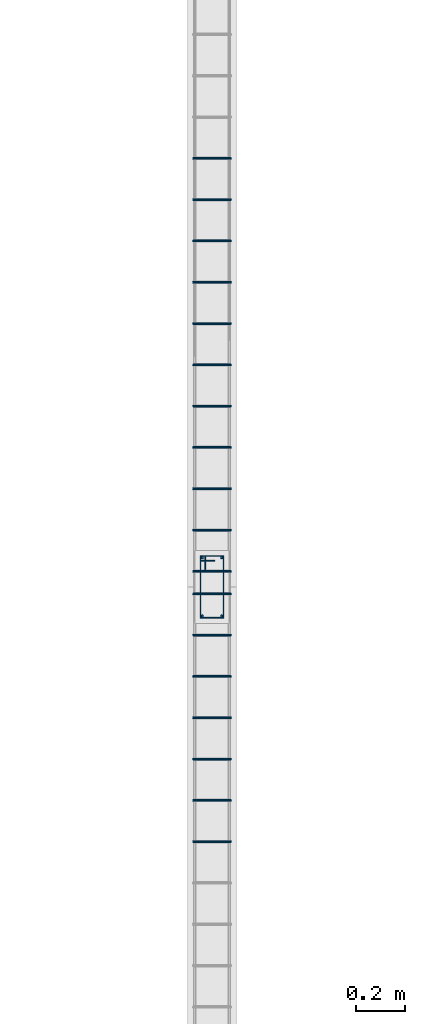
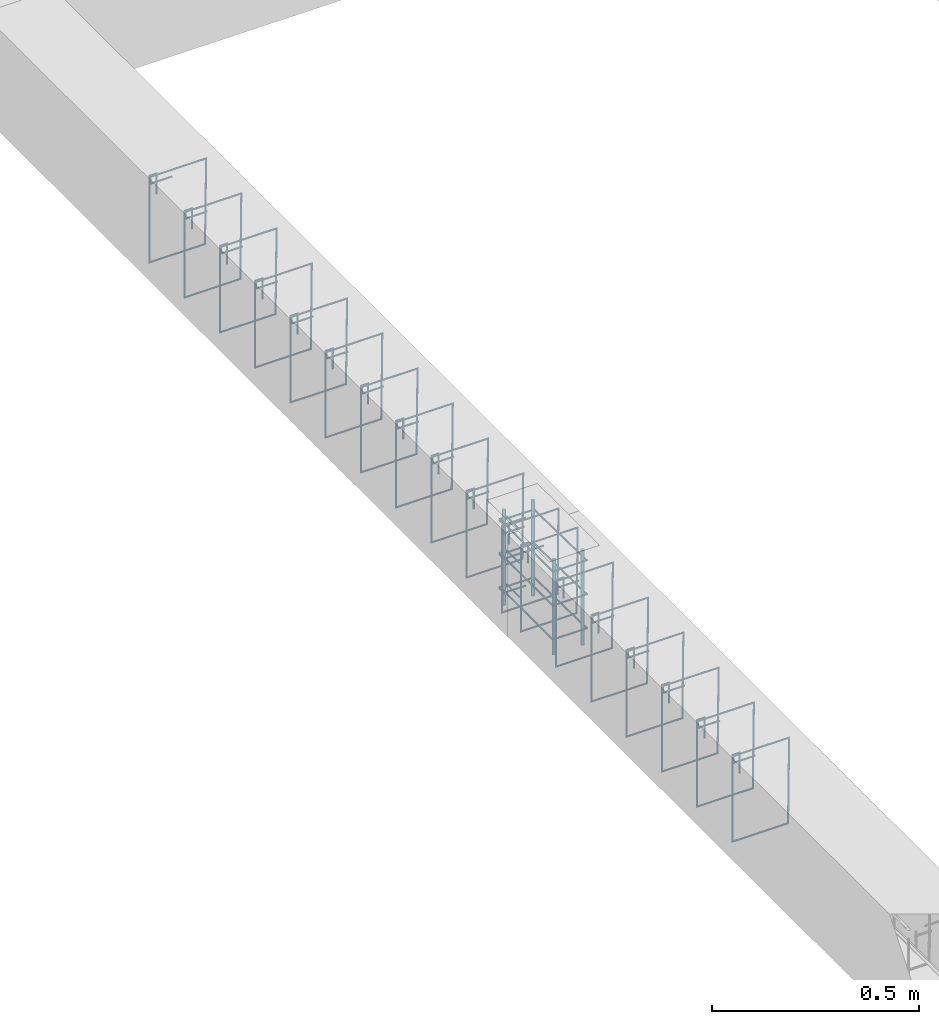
# One storey, part 135 of 150: 25 reinforcing bars.
"""IFC4 building model written with IfcOpenShell, lengths in centimetres."""

from ifc_helpers import new_model, entity, si_unit, derived_unit, frame, origin_with_axes, place, context, project, spatial, source, transform, mapped, element, save


model = new_model("IFC4")

# Units and contexts
model_context = context("Model", 3, precision=1e-05, world=origin_with_axes(), identifier="Body")
ifc_project = project(units=[si_unit("LENGTHUNIT", "METRE", prefix="CENTI"), si_unit("VOLUMEUNIT", "CUBIC_METRE"), si_unit("AREAUNIT", "SQUARE_METRE"), si_unit("POWERUNIT", "WATT"), si_unit("LUMINOUSFLUXUNIT", "LUMEN"), si_unit("ELECTRICCURRENTUNIT", "AMPERE"), si_unit("PRESSUREUNIT", "PASCAL", prefix="KILO"), si_unit("MASSUNIT", "GRAM", prefix="KILO"), si_unit("PLANEANGLEUNIT", "RADIAN"), derived_unit("VOLUMETRICFLOWRATEUNIT", [(si_unit("LENGTHUNIT", "METRE"), 3), (si_unit("TIMEUNIT", "SECOND"), -1)])], contexts=[model_context])

# Site, building, storey
site_placement = place(None, frame((-4000.0, 0.0, 0.0), z_axis=(0.0, 0.0, 1.0), x_axis=(1.0, 0.0, 0.0)))
site = spatial("IfcSite", under=ifc_project, at=site_placement, Name="PADRÃO")
building_placement = place(site_placement, frame((0.0, 0.0, -14.0)))
building = spatial("IfcBuilding", under=site, at=building_placement, Name="CRECHE PRÉ-ESCOLA TIPO 2")
placement = place(building_placement, origin_with_axes())
storey_placement = place(placement, frame((0.0, 0.0, 30.0), z_axis=(0.0, 0.0, 1.0), x_axis=(1.0, 0.0, 0.0)))
storey = spatial("IfcBuildingStorey", under=building, at=storey_placement, Name="VIGA BALDRAME", CompositionType="ELEMENT", Elevation=16.0)

# Reinforcing bars
shared_shape_1 = source(origin_with_axes(), model_context, "Body", "AdvancedSweptSolid", [
    entity("IfcSweptDiskSolid", entity("IfcCompositeCurve", [entity("IfcCompositeCurveSegment", "CONTINUOUS", True, entity("IfcPolyline", [entity("IfcCartesianPoint", [4.25, 21.75, 0.0]), entity("IfcCartesianPoint", [4.25, 27.75, 0.0])])), entity("IfcCompositeCurveSegment", "CONTINUOUS", True, entity("IfcPolyline", [entity("IfcCartesianPoint", [4.25, 27.75, 0.0]), entity("IfcCartesianPoint", [2.25, 27.75, 0.0])])), entity("IfcCompositeCurveSegment", "CONTINUOUS", True, entity("IfcPolyline", [entity("IfcCartesianPoint", [2.25, 27.75, 0.0]), entity("IfcCartesianPoint", [2.25, 2.25, 0.0])])), entity("IfcCompositeCurveSegment", "CONTINUOUS", True, entity("IfcPolyline", [entity("IfcCartesianPoint", [2.25, 2.25, 0.0]), entity("IfcCartesianPoint", [11.75, 2.25, 0.0])])), entity("IfcCompositeCurveSegment", "CONTINUOUS", True, entity("IfcPolyline", [entity("IfcCartesianPoint", [11.75, 2.25, 0.0]), entity("IfcCartesianPoint", [11.75, 27.75, -0.5])])), entity("IfcCompositeCurveSegment", "CONTINUOUS", True, entity("IfcPolyline", [entity("IfcCartesianPoint", [11.75, 27.75, -0.5]), entity("IfcCartesianPoint", [2.25, 27.75, -0.5])])), entity("IfcCompositeCurveSegment", "CONTINUOUS", True, entity("IfcPolyline", [entity("IfcCartesianPoint", [2.25, 27.75, -0.5]), entity("IfcCartesianPoint", [2.25, 25.75, -0.5])])), entity("IfcCompositeCurveSegment", "CONTINUOUS", True, entity("IfcPolyline", [entity("IfcCartesianPoint", [2.25, 25.75, -0.5]), entity("IfcCartesianPoint", [8.25, 25.75, -0.5])]))], False), 0.25),
])
for number, where, z_axis, x_axis, name in (
    (1, (3132.43, 3708.26, -5.0), (0.0, 0.0, 1.0), (1.0, 0.0, 0.0), "P32 - Estribo"),
    (2, (3132.43, 3708.26, -15.0), (0.0, 0.0, 1.0), (1.0, 0.0, 0.0), "P32 - Estribo"),
    (3, (3132.43, 3708.26, -25.0), (0.0, 0.0, 1.0), (1.0, 0.0, 0.0), "P32 - Estribo"),
):
    element("IfcReinforcingBar", number, at=place(storey_placement, frame(where, z_axis=z_axis, x_axis=x_axis)), inside=storey, Name=name, BarLength=0.0, CrossSectionArea=1.9634954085e-05, NominalDiameter=0.5, PredefinedType="MAIN", context=model_context, shape_type="MappedRepresentation", body=[
        mapped(shared_shape_1, transform((0.0, 0.0, 0.0), scale=1.0)),
    ])
shared_shape_2 = source(origin_with_axes(), model_context, "Body", "AdvancedSweptSolid", [
    entity("IfcSweptDiskSolid", entity("IfcCompositeCurve", [entity("IfcCompositeCurveSegment", "CONTINUOUS", True, entity("IfcPolyline", [entity("IfcCartesianPoint", [2.0, -6.0, 0.0]), entity("IfcCartesianPoint", [2.0, 0.0, 0.0])])), entity("IfcCompositeCurveSegment", "CONTINUOUS", True, entity("IfcPolyline", [entity("IfcCartesianPoint", [2.0, 0.0, 0.0]), entity("IfcCartesianPoint", [0.0, 0.0, 0.0])])), entity("IfcCompositeCurveSegment", "CONTINUOUS", True, entity("IfcPolyline", [entity("IfcCartesianPoint", [0.0, 0.0, 0.0]), entity("IfcCartesianPoint", [0.0, -25.5, 0.0])])), entity("IfcCompositeCurveSegment", "CONTINUOUS", True, entity("IfcPolyline", [entity("IfcCartesianPoint", [0.0, -25.5, 0.0]), entity("IfcCartesianPoint", [15.5, -25.5, 0.0])])), entity("IfcCompositeCurveSegment", "CONTINUOUS", True, entity("IfcPolyline", [entity("IfcCartesianPoint", [15.5, -25.5, 0.0]), entity("IfcCartesianPoint", [15.5, 0.0, 0.5])])), entity("IfcCompositeCurveSegment", "CONTINUOUS", True, entity("IfcPolyline", [entity("IfcCartesianPoint", [15.5, 0.0, 0.5]), entity("IfcCartesianPoint", [0.0, 0.0, 0.5])])), entity("IfcCompositeCurveSegment", "CONTINUOUS", True, entity("IfcPolyline", [entity("IfcCartesianPoint", [0.0, 0.0, 0.5]), entity("IfcCartesianPoint", [0.0, -2.0, 0.5])])), entity("IfcCompositeCurveSegment", "CONTINUOUS", True, entity("IfcPolyline", [entity("IfcCartesianPoint", [0.0, -2.0, 0.5]), entity("IfcCartesianPoint", [6.0, -2.0, 0.5])]))], False), 0.25),
])
for number, where, z_axis, x_axis, name in (
    (4, (3131.68, 3669.635, -2.25), (0.0, -1.0, 0.0), (1.0, 0.0, 0.0), "V221 - Estribo"),
    (5, (3131.68, 3720.635, -2.25), (0.0, -1.0, 0.0), (1.0, 0.0, 0.0), "V221 - Estribo"),
    (6, (3131.68, 3618.635, -2.25), (0.0, -1.0, 0.0), (1.0, 0.0, 0.0), "V221 - Estribo"),
    (7, (3131.68, 3703.635, -2.25), (0.0, -1.0, 0.0), (1.0, 0.0, 0.0), "V221 - Estribo"),
    (8, (3131.68, 3686.635, -2.25), (0.0, -1.0, 0.0), (1.0, 0.0, 0.0), "V221 - Estribo"),
    (9, (3131.68, 3652.635, -2.25), (0.0, -1.0, 0.0), (1.0, 0.0, 0.0), "V221 - Estribo"),
    (10, (3131.68, 3635.635, -2.25), (0.0, -1.0, 0.0), (1.0, 0.0, 0.0), "V221 - Estribo"),
):
    element("IfcReinforcingBar", number, at=place(storey_placement, frame(where, z_axis=z_axis, x_axis=x_axis)), inside=storey, Name=name, BarLength=0.0, CrossSectionArea=1.9634954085e-05, NominalDiameter=0.5, PredefinedType="MAIN", context=model_context, shape_type="MappedRepresentation", body=[
        mapped(shared_shape_2, transform((0.0, 0.0, 0.0), scale=1.0)),
    ])
shared_shape_3 = source(origin_with_axes(), model_context, "Body", "AdvancedSweptSolid", [
    entity("IfcSweptDiskSolid", entity("IfcCompositeCurve", [entity("IfcCompositeCurveSegment", "CONTINUOUS", True, entity("IfcPolyline", [entity("IfcCartesianPoint", [2.0, -6.0, 0.0]), entity("IfcCartesianPoint", [2.0, 0.0, 0.0])])), entity("IfcCompositeCurveSegment", "CONTINUOUS", True, entity("IfcPolyline", [entity("IfcCartesianPoint", [2.0, 0.0, 0.0]), entity("IfcCartesianPoint", [0.0, 0.0, 0.0])])), entity("IfcCompositeCurveSegment", "CONTINUOUS", True, entity("IfcPolyline", [entity("IfcCartesianPoint", [0.0, 0.0, 0.0]), entity("IfcCartesianPoint", [0.0, -25.5, 0.0])])), entity("IfcCompositeCurveSegment", "CONTINUOUS", True, entity("IfcPolyline", [entity("IfcCartesianPoint", [0.0, -25.5, 0.0]), entity("IfcCartesianPoint", [15.5, -25.5, 0.0])])), entity("IfcCompositeCurveSegment", "CONTINUOUS", True, entity("IfcPolyline", [entity("IfcCartesianPoint", [15.5, -25.5, 0.0]), entity("IfcCartesianPoint", [15.5, 0.0, 0.5])])), entity("IfcCompositeCurveSegment", "CONTINUOUS", True, entity("IfcPolyline", [entity("IfcCartesianPoint", [15.5, 0.0, 0.5]), entity("IfcCartesianPoint", [0.0, 0.0, 0.5])])), entity("IfcCompositeCurveSegment", "CONTINUOUS", True, entity("IfcPolyline", [entity("IfcCartesianPoint", [0.0, 0.0, 0.5]), entity("IfcCartesianPoint", [0.0, -2.0, 0.5])])), entity("IfcCompositeCurveSegment", "CONTINUOUS", True, entity("IfcPolyline", [entity("IfcCartesianPoint", [0.0, -2.0, 0.5]), entity("IfcCartesianPoint", [6.0, -2.0, 0.5])]))], False), 0.25),
])
for number, where, z_axis, x_axis, name in (
    (11, (3131.68, 3899.885, -2.25), (0.0, -1.0, 0.0), (1.0, 0.0, 0.0), "V221 - Estribo"),
    (12, (3131.68, 3882.885, -2.25), (0.0, -1.0, 0.0), (1.0, 0.0, 0.0), "V221 - Estribo"),
    (13, (3131.68, 3865.885, -2.25), (0.0, -1.0, 0.0), (1.0, 0.0, 0.0), "V221 - Estribo"),
    (14, (3131.68, 3848.885, -2.25), (0.0, -1.0, 0.0), (1.0, 0.0, 0.0), "V221 - Estribo"),
    (15, (3131.68, 3831.885, -2.25), (0.0, -1.0, 0.0), (1.0, 0.0, 0.0), "V221 - Estribo"),
    (16, (3131.68, 3814.885, -2.25), (0.0, -1.0, 0.0), (1.0, 0.0, 0.0), "V221 - Estribo"),
    (17, (3131.68, 3780.885, -2.25), (0.0, -1.0, 0.0), (1.0, 0.0, 0.0), "V221 - Estribo"),
    (18, (3131.68, 3763.885, -2.25), (0.0, -1.0, 0.0), (1.0, 0.0, 0.0), "V221 - Estribo"),
    (19, (3131.68, 3746.885, -2.25), (0.0, -1.0, 0.0), (1.0, 0.0, 0.0), "V221 - Estribo"),
    (20, (3131.68, 3729.885, -2.25), (0.0, -1.0, 0.0), (1.0, 0.0, 0.0), "V221 - Estribo"),
    (21, (3131.68, 3797.885, -2.25), (0.0, -1.0, 0.0), (1.0, 0.0, 0.0), "V221 - Estribo"),
):
    element("IfcReinforcingBar", number, at=place(storey_placement, frame(where, z_axis=z_axis, x_axis=x_axis)), inside=storey, Name=name, BarLength=0.0, CrossSectionArea=1.9634954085e-05, NominalDiameter=0.5, PredefinedType="MAIN", context=model_context, shape_type="MappedRepresentation", body=[
        mapped(shared_shape_3, transform((0.0, 0.0, 0.0), scale=1.0)),
    ])
for number, where, z_axis, x_axis, name in (
    (22, (3143.43, 3735.26, -2.0), (0.0, 0.0, 1.0), (1.0, 0.0, 0.0), "P32 - Longitudinal"),
    (23, (3135.43, 3735.26, -2.0), (0.0, 0.0, 1.0), (1.0, 0.0, 0.0), "P32 - Longitudinal"),
    (24, (3143.43, 3711.26, -2.0), (0.0, 0.0, 1.0), (1.0, 0.0, 0.0), "P32 - Longitudinal"),
    (25, (3135.43, 3711.26, -2.0), (0.0, 0.0, 1.0), (1.0, 0.0, 0.0), "P32 - Longitudinal"),
):
    element("IfcReinforcingBar", number, at=place(storey_placement, frame(where, z_axis=z_axis, x_axis=x_axis)), inside=storey, Name=name, BarLength=0.0, CrossSectionArea=7.853981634e-05, NominalDiameter=1.0, PredefinedType="MAIN", context=model_context, shape_type="AdvancedSweptSolid", body=[
        entity("IfcSweptDiskSolid", entity("IfcCompositeCurve", [entity("IfcCompositeCurveSegment", "CONTINUOUS", True, entity("IfcPolyline", [entity("IfcCartesianPoint", [0.0, 0.0, -28.0]), entity("IfcCartesianPoint", [0.0, 0.0, 0.0])]))], False), 0.5),
    ])

save(model, "model.ifc")
